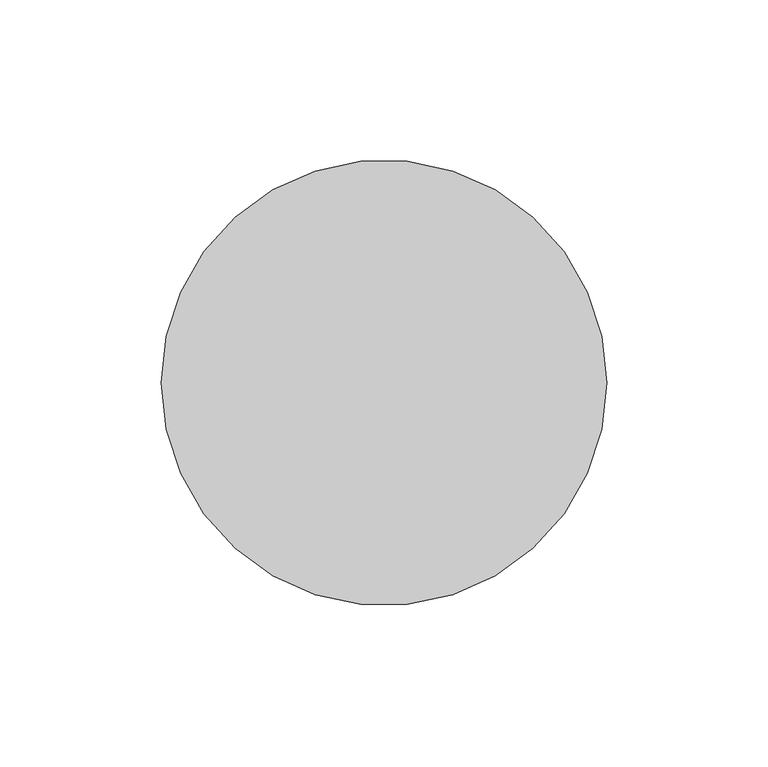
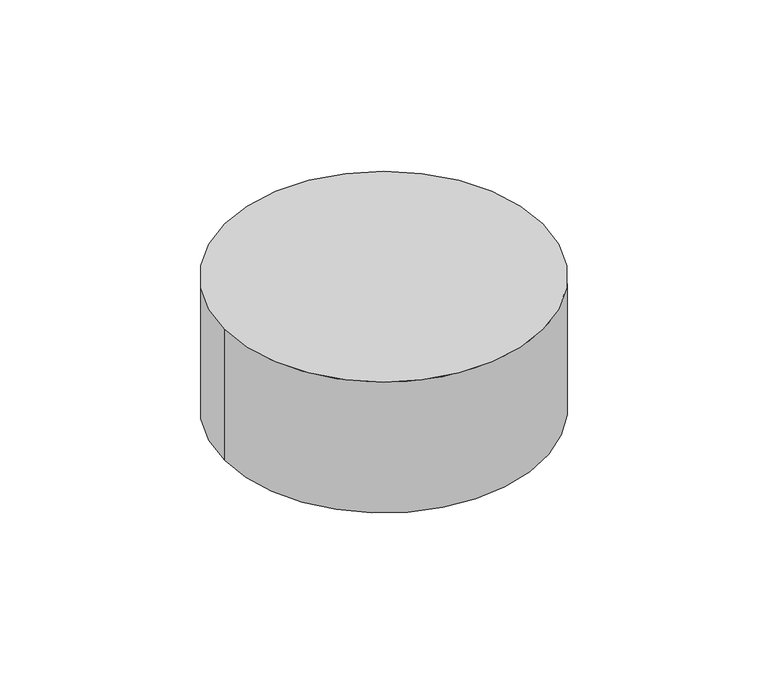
"""IFC4 building model written with IfcOpenShell, lengths in millimetres: light fixture geometry, GENILED_Светильник светодиодный_Ceiling Накладной : Сейлинг накладного монтажа d138 h60 10Вт 90Ra Белый."""

from ifc_helpers import new_model, si_unit, point, frame, origin, origin_with_axes, origin_2d, place, context, project, spatial, polyline, circle_curve, trimmed, segment, composite_curve, outline, extrude, source, transform, mapped, element, save
from ifc_brep_helpers import plane_surface, cylinder_surface, revolved_surface, advanced_brep


def light_fixture_520ac91d(model_context):
    return source(origin(), model_context, "Body", "SolidModel", [
        advanced_brep(
        [(-69.0, 0.0, 60.0), (69.0, 0.0, 60.0), (-69.0, 0.0, 0.0), (69.0, 0.0, 0.0), (-49.0, 0.0, 0.0), (49.0, 0.0, 0.0), (-49.0, 0.0, 4.0), (49.0, 0.0, 4.0)],
        [
            (0, 1, circle_curve(frame((0.0, 0.0, 60.0), z_axis=(0.0, 0.0, 1.0), x_axis=(1.0, 0.0, 0.0)), 69.0)),
            (1, 0, circle_curve(frame((0.0, 0.0, 60.0), z_axis=(0.0, 0.0, 1.0), x_axis=(1.0, 0.0, 0.0)), 69.0)),
            (2, 3, circle_curve(frame((0.0, 0.0, 0.0), z_axis=(0.0, 0.0, -1.0), x_axis=(1.0, 0.0, 0.0)), 69.0)),
            (3, 2, circle_curve(frame((0.0, 0.0, 0.0), z_axis=(0.0, 0.0, -1.0), x_axis=(1.0, 0.0, 0.0)), 69.0)),
            (4, 5, circle_curve(origin_with_axes(), 49.0)),
            (5, 4, circle_curve(origin_with_axes(), 49.0)),
            (0, 2),
            (3, 1),
            (6, 7, circle_curve(frame((0.0, 0.0, 4.0), z_axis=(0.0, 0.0, -1.0), x_axis=(1.0, 0.0, 0.0)), 49.0)),
            (7, 6, circle_curve(frame((0.0, 0.0, 4.0), z_axis=(0.0, 0.0, -1.0), x_axis=(1.0, 0.0, 0.0)), 49.0)),
            (7, 5),
            (4, 6),
        ],
        [
            plane_surface(frame((69.0, 0.0, 60.0), z_axis=(0.0, 0.0, 1.0), x_axis=(0.0, 1.0, 0.0))),
            plane_surface(frame((69.0, 0.0, 0.0), z_axis=(0.0, 0.0, -1.0), x_axis=(0.0, -1.0, 0.0))),
            cylinder_surface(origin_with_axes(), 69.0),
            plane_surface(frame((49.0, 0.0, 4.0), z_axis=(0.0, 0.0, -1.0), x_axis=(0.0, 1.0, 0.0))),
            revolved_surface(polyline([(49.0, 0.0, 4.0), (49.0, 0.0, 0.0)]), (0.0, 0.0, 0.0), (0.0, 0.0, 1.0)),
        ],
        [
            (0, [[1, 2]]),
            (1, [[3, 4], [5, 6]]),
            (2, [[-1, 7, -4, 8]]),
            (2, [[-2, -8, -3, -7]]),
            (3, [[9, 10]]),
            (4, [[-10, 11, -5, 12]]),
            (4, [[-9, -12, -6, -11]]),
        ],
    ),
        extrude(outline(composite_curve([segment(trimmed(circle_curve(origin_2d(), 49.0), [point((-49.0, 0.0))], [point((49.0, 0.0))], False, "CARTESIAN"), True, "CONTINUOUS"), segment(trimmed(circle_curve(origin_2d(), 49.0), [point((49.0, 0.0))], [point((-49.0, 0.0))], False, "CARTESIAN"), True, "CONTINUOUS")], self_intersect=False)), frame((0.0, 0.0, 2.0), z_axis=(0.0, 0.0, 1.0), x_axis=(1.0, 0.0, 0.0)), (0.0, 0.0, 1.0), 2.0),
    ])


if __name__ == "__main__":
    model = new_model("IFC4")
    model_context = context("Model", 3, world=origin())
    ifc_project = project(units=[si_unit("LENGTHUNIT", "METRE", prefix="MILLI")], contexts=[model_context])
    site = spatial("IfcSite", under=ifc_project)
    building = spatial("IfcBuilding", under=site)
    placement = place(None, origin())
    light_fixture_shape = light_fixture_520ac91d(model_context)
    element("IfcLightFixture", 1, ObjectType="GENILED_Светильник светодиодный_Ceiling Накладной : Сейлинг накладного монтажа d138 h60 10Вт 90Ra Белый", at=placement, inside=building, context=model_context, shape_type="MappedRepresentation", body=[
        mapped(light_fixture_shape, transform((0.0, 0.0, 0.0), x_axis=(1.0, 0.0, 0.0), y_axis=(0.0, 1.0, 0.0), z_axis=(0.0, 0.0, 1.0))),
    ])
    save(model, "model.ifc")
